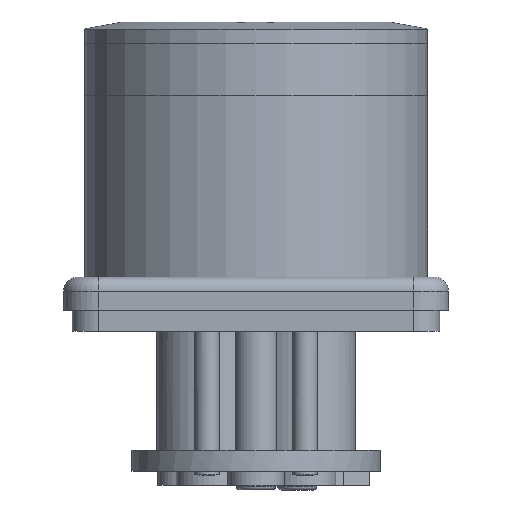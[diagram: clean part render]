
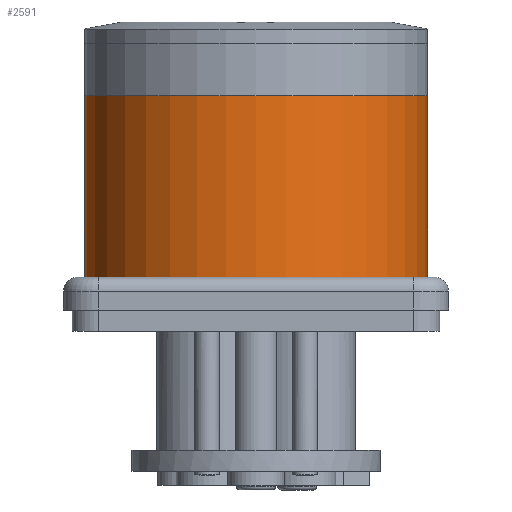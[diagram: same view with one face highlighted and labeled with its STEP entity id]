
A CAD part, front view. The second image highlights one B-rep face of the part: STEP entity #2591.
In plain terms, the highlighted cylindrical face has radius 24.5 mm (diameter 49 mm), a full revolution.
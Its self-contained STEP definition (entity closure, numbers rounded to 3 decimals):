
#698=FACE_BOUND('',#5810,.T.);
#699=FACE_BOUND('',#5811,.T.);
#700=FACE_BOUND('',#5812,.T.);
#1605=CYLINDRICAL_SURFACE('',#23353,24.5);
#2591=ADVANCED_FACE('',(#698,#699,#700),#1605,.T.);
#5810=EDGE_LOOP('',(#13157));
#5811=EDGE_LOOP('',(#13158));
#5812=EDGE_LOOP('',(#13159,#13160,#13161,#13162,#13163,#13164,#13165,#13166));
#6812=ELLIPSE('',#23349,25.365,24.5);
#6813=ELLIPSE('',#23351,27.034,24.5);
#7446=LINE('',#40699,#8537);
#7447=LINE('',#40704,#8538);
#7448=LINE('',#40708,#8539);
#7449=LINE('',#40712,#8540);
#8537=VECTOR('',#27792,1.);
#8538=VECTOR('',#27795,1.);
#8539=VECTOR('',#27798,1.);
#8540=VECTOR('',#27801,1.);
#9740=CIRCLE('',#23347,24.5);
#9741=CIRCLE('',#23348,24.5);
#9742=CIRCLE('',#23350,24.5);
#9743=CIRCLE('',#23352,24.5);
#13157=ORIENTED_EDGE('',*,*,#19873,.F.);
#13158=ORIENTED_EDGE('',*,*,#19874,.F.);
#13159=ORIENTED_EDGE('',*,*,#19875,.T.);
#13160=ORIENTED_EDGE('',*,*,#19876,.T.);
#13161=ORIENTED_EDGE('',*,*,#19877,.F.);
#13162=ORIENTED_EDGE('',*,*,#19878,.F.);
#13163=ORIENTED_EDGE('',*,*,#19879,.T.);
#13164=ORIENTED_EDGE('',*,*,#19880,.T.);
#13165=ORIENTED_EDGE('',*,*,#19881,.F.);
#13166=ORIENTED_EDGE('',*,*,#19882,.T.);
#17464=VERTEX_POINT('',#40696);
#17465=VERTEX_POINT('',#40698);
#17466=VERTEX_POINT('',#40700);
#17467=VERTEX_POINT('',#40701);
#17468=VERTEX_POINT('',#40703);
#17469=VERTEX_POINT('',#40705);
#17470=VERTEX_POINT('',#40707);
#17471=VERTEX_POINT('',#40709);
#17472=VERTEX_POINT('',#40711);
#17473=VERTEX_POINT('',#40713);
#19873=EDGE_CURVE('',#17464,#17464,#9740,.T.);
#19874=EDGE_CURVE('',#17465,#17465,#9741,.T.);
#19875=EDGE_CURVE('',#17466,#17467,#7446,.T.);
#19876=EDGE_CURVE('',#17467,#17468,#6812,.T.);
#19877=EDGE_CURVE('',#17469,#17468,#7447,.T.);
#19878=EDGE_CURVE('',#17470,#17469,#9742,.T.);
#19879=EDGE_CURVE('',#17470,#17471,#7448,.T.);
#19880=EDGE_CURVE('',#17471,#17472,#6813,.T.);
#19881=EDGE_CURVE('',#17473,#17472,#7449,.T.);
#19882=EDGE_CURVE('',#17473,#17466,#9743,.T.);
#23347=AXIS2_PLACEMENT_3D('',#40695,#27788,#27789);
#23348=AXIS2_PLACEMENT_3D('',#40697,#27790,#27791);
#23349=AXIS2_PLACEMENT_3D('',#40702,#27793,#27794);
#23350=AXIS2_PLACEMENT_3D('',#40706,#27796,#27797);
#23351=AXIS2_PLACEMENT_3D('',#40710,#27799,#27800);
#23352=AXIS2_PLACEMENT_3D('',#40714,#27802,#27803);
#23353=AXIS2_PLACEMENT_3D('',#40715,#27804,#27805);
#27788=DIRECTION('',(0.,0.,-1.));
#27789=DIRECTION('',(1.,0.,0.));
#27790=DIRECTION('',(0.,0.,1.));
#27791=DIRECTION('',(0.,-1.,0.));
#27792=DIRECTION('',(0.,0.,-1.));
#27793=DIRECTION('',(0.,-0.259,0.966));
#27794=DIRECTION('',(0.,0.966,0.259));
#27795=DIRECTION('',(0.,0.,-1.));
#27796=DIRECTION('',(0.,0.,-1.));
#27797=DIRECTION('',(-1.,0.,0.));
#27798=DIRECTION('',(0.,0.,-1.));
#27799=DIRECTION('',(0.,0.423,-0.906));
#27800=DIRECTION('',(0.,0.906,0.423));
#27801=DIRECTION('',(0.,0.,-1.));
#27802=DIRECTION('',(0.,0.,1.));
#27803=DIRECTION('',(-1.,0.,0.));
#27804=DIRECTION('',(0.,0.,1.));
#27805=DIRECTION('',(1.,0.,0.));
#40695=CARTESIAN_POINT('',(-0.001,0.,11.2));
#40696=CARTESIAN_POINT('',(24.499,0.,11.2));
#40697=CARTESIAN_POINT('',(-0.001,0.,37.15));
#40698=CARTESIAN_POINT('',(-0.001,-24.5,37.15));
#40699=CARTESIAN_POINT('',(11.999,21.36,-14.));
#40700=CARTESIAN_POINT('',(11.999,21.36,36.));
#40701=CARTESIAN_POINT('',(11.999,21.36,21.982));
#40702=CARTESIAN_POINT('',(-0.001,0.,16.258));
#40703=CARTESIAN_POINT('',(-12.001,21.36,21.982));
#40704=CARTESIAN_POINT('',(-12.001,21.36,-14.));
#40705=CARTESIAN_POINT('',(-12.001,21.36,36.));
#40706=CARTESIAN_POINT('',(-0.001,0.,36.));
#40707=CARTESIAN_POINT('',(-16.001,18.554,36.));
#40708=CARTESIAN_POINT('',(-16.001,18.554,-14.));
#40709=CARTESIAN_POINT('',(-16.001,18.554,17.461));
#40710=CARTESIAN_POINT('',(-0.001,0.,8.806));
#40711=CARTESIAN_POINT('',(15.999,18.554,17.461));
#40712=CARTESIAN_POINT('',(15.999,18.554,-14.));
#40713=CARTESIAN_POINT('',(15.999,18.554,36.));
#40714=CARTESIAN_POINT('',(-0.001,0.,36.));
#40715=CARTESIAN_POINT('',(-0.001,0.,-14.));
